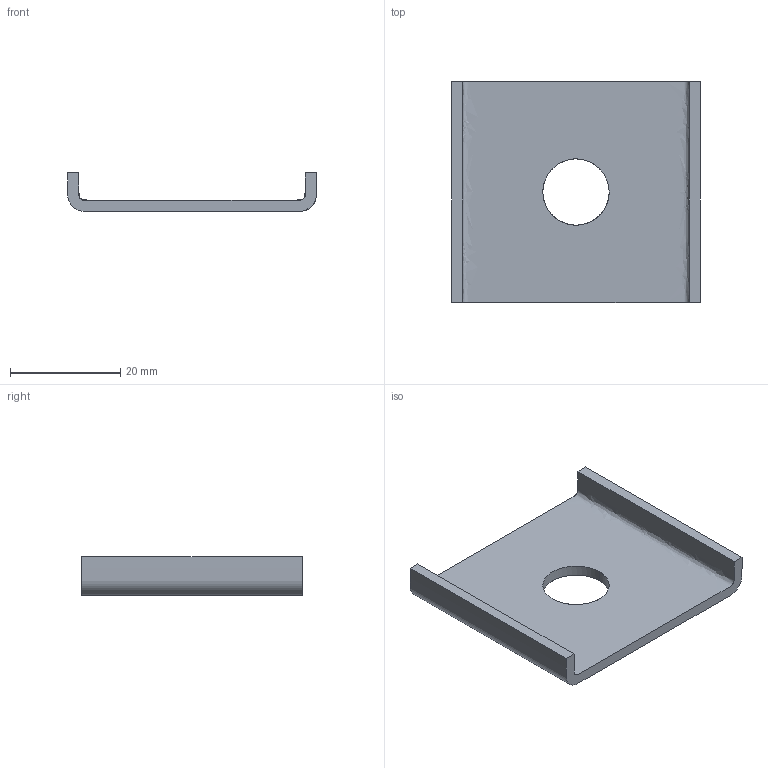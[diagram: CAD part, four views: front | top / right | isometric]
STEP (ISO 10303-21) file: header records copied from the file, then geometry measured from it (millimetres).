
FILE_DESCRIPTION(/* description */ (''),/* implementation_level */ '2;1');
FILE_NAME(/* name */ 'PVM',/* time_stamp */ '2012-11-29T22:51:33+01:00',/* author */ (''),/* organization */ (''),/* preprocessor_version */ 'ST-DEVELOPER v10',/* originating_system */ '',/* authorisation */ '');
FILE_SCHEMA (('AUTOMOTIVE_DESIGN_CC2'));
Length unit declared in the file: millimetre
Products named in the file (1): 1
Bounding box: 45 x 40 x 7 mm (x, y, z)
Surface area: 4522.1 mm2 (no closed solid volume)
Topology: 0 solids, 8 shells, 9 faces, 38 edges, 36 vertices
Faces by surface type: bspline 5, plane 4
Entity records: 559 total; most frequent: CARTESIAN_POINT 278, ORIENTED_EDGE 40, EDGE_CURVE 38, VERTEX_POINT 36, B_SPLINE_CURVE_WITH_KNOTS 20, EDGE_LOOP 11, ADVANCED_FACE 9, FACE_OUTER_BOUND 9
